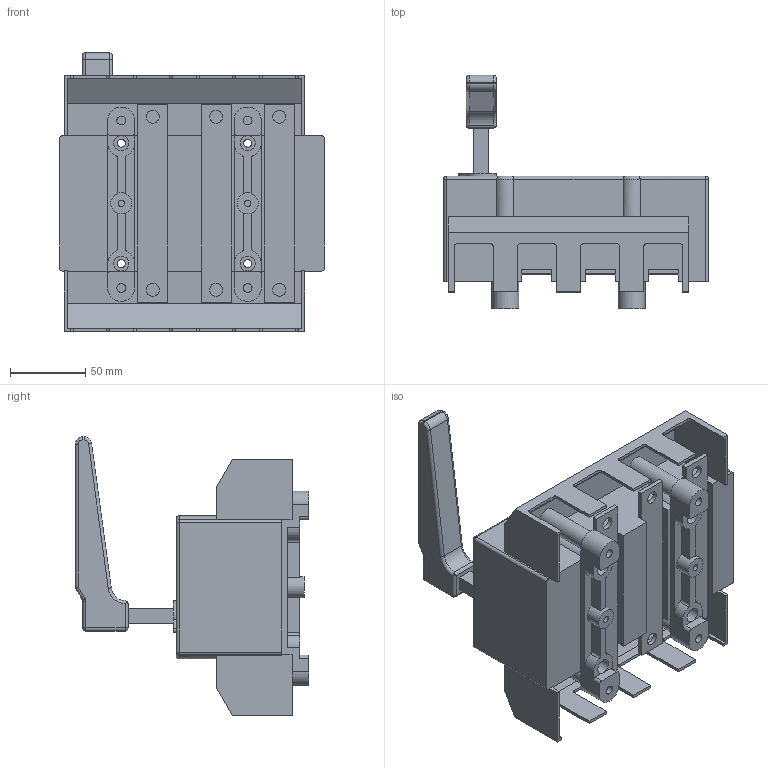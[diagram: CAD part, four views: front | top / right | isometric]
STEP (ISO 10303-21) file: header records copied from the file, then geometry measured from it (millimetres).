
FILE_DESCRIPTION(/* description */ (''),/* implementation_level */ '2;1');
FILE_NAME(/* name */ 'RA160 P3-R z oslona zaciskow.stp',/* time_stamp */ '2021-08-17T13:35:32+02:00',/* author */ (''),/* organization */ (''),/* preprocessor_version */ 'ST-DEVELOPER v18.1',/* originating_system */ 'SIEMENS PLM Software NX 1965',/* authorisation */ '');
FILE_SCHEMA (('AUTOMOTIVE_DESIGN { 1 0 10303 214 3 1 1 1 }'));
Length unit declared in the file: millimetre
Products named in the file (1): RA160_P3-R_z_oslona_zaciskow
Bounding box: 176 x 155 x 184.9 mm (x, y, z)
Volume: 1257525.8 mm3; surface area: 167043.4 mm2
Topology: 1 solids, 1 shells, 324 faces, 909 edges, 584 vertices
Faces by surface type: plane 174, cylinder 128, torus 12, sphere 10
Full cylindrical faces by diameter (mm): 4.3 x2, 5.3 x4, 5.8 x4, 8.5 x6, 10 x12, 13 x4, 14 x2
Entity records: 10292 total; most frequent: CARTESIAN_POINT 1908, DIRECTION 1761, ORIENTED_EDGE 1690, EDGE_CURVE 845, AXIS2_PLACEMENT_3D 605, VERTEX_POINT 556, LINE 551, VECTOR 551
